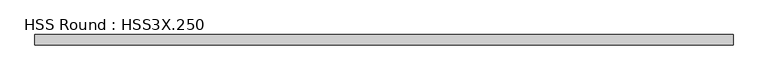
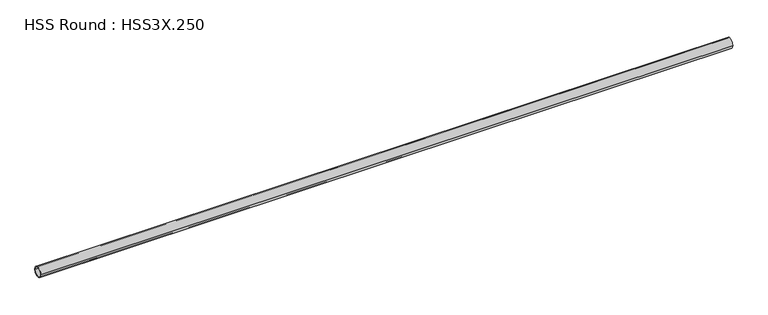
"""IFC4 building model written with IfcOpenShell, lengths in millimetres: member geometry, HSS Round : HSS3X.250."""

from ifc_helpers import new_model, si_unit, point, frame, origin, origin_2d, place, context, project, spatial, circle_curve, trimmed, segment, composite_curve, outline, extrude, source, transform, mapped, element, save


def hss_round_hss3x_250_9a0c9b5f(model_context):
    return source(origin(), model_context, "Body", "SweptSolid", [
        extrude(outline(composite_curve([segment(trimmed(circle_curve(origin_2d(), 38.1), [point((-38.1, 0.0))], [point((38.1, 0.0))], False, "CARTESIAN"), True, "CONTINUOUS"), segment(trimmed(circle_curve(origin_2d(), 38.1), [point((38.1, 0.0))], [point((-38.1, 0.0))], False, "CARTESIAN"), True, "CONTINUOUS")], self_intersect=False), holes=[composite_curve([segment(trimmed(circle_curve(origin_2d(), 31.75), [point((31.75, 0.0))], [point((-31.75, 0.0))], True, "CARTESIAN"), True, "CONTINUOUS"), segment(trimmed(circle_curve(origin_2d(), 31.75), [point((-31.75, 0.0))], [point((31.75, 0.0))], True, "CARTESIAN"), True, "CONTINUOUS")], self_intersect=False)]), frame((-2581.9558428, 0.0, 0.0), z_axis=(1.0, 0.0, 0.0), x_axis=(0.0, 1.0, 0.0)), (0.0, 0.0, 1.0), 5163.9116856),
    ])


if __name__ == "__main__":
    model = new_model("IFC4")
    model_context = context("Model", 3, world=origin())
    ifc_project = project(units=[si_unit("LENGTHUNIT", "METRE", prefix="MILLI")], contexts=[model_context])
    site = spatial("IfcSite", under=ifc_project)
    building = spatial("IfcBuilding", under=site)
    placement = place(None, origin())
    hss_round_hss3x_250_shape = hss_round_hss3x_250_9a0c9b5f(model_context)
    element("IfcMember", 1, ObjectType="HSS Round : HSS3X.250", at=placement, inside=building, context=model_context, shape_type="MappedRepresentation", body=[
        mapped(hss_round_hss3x_250_shape, transform((0.0, 0.0, 0.0), x_axis=(1.0, 0.0, 0.0), y_axis=(0.0, 1.0, 0.0), z_axis=(0.0, 0.0, 1.0))),
    ])
    save(model, "model.ifc")
